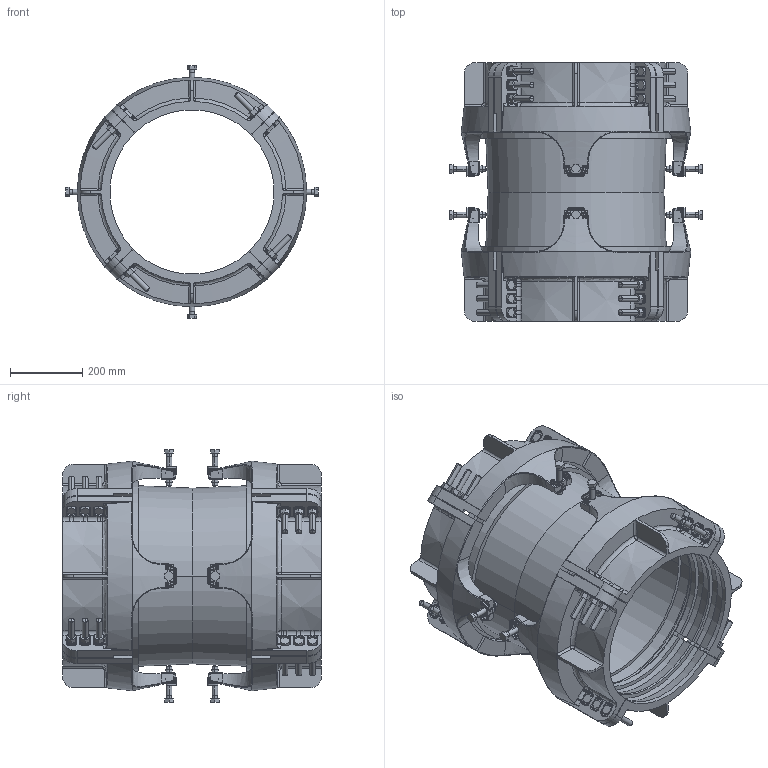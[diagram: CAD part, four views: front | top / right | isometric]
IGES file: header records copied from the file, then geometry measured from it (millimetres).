
Start section:  PTC IGES file: 450_coup.igs
Global section: file name: 450_coup.igs; native system: Pro/ENGINEER by Parametric Technology Corporation; preprocessor: 2006020; author: mfairey; organization: Unknown; date: 170508.102338; units: millimetre
Bounding box: 699.5 x 715 x 699.5 mm (x, y, z)
Surface area: 4978616.7 mm2 (no closed solid volume)
Topology: 0 solids, 0 shells, 3438 faces, 16792 edges, 16728 vertices
Faces by surface type: revolution 2076, bspline 1362
